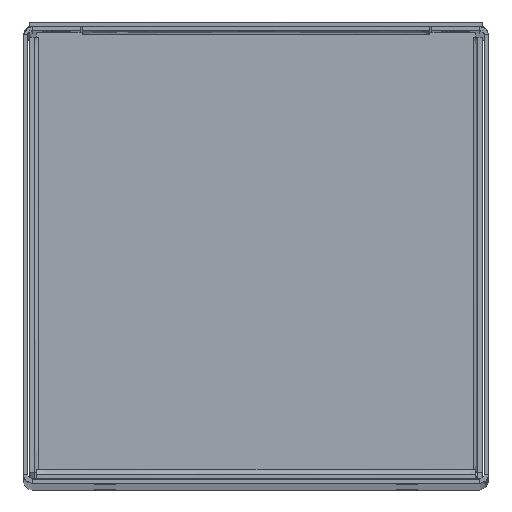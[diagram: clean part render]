
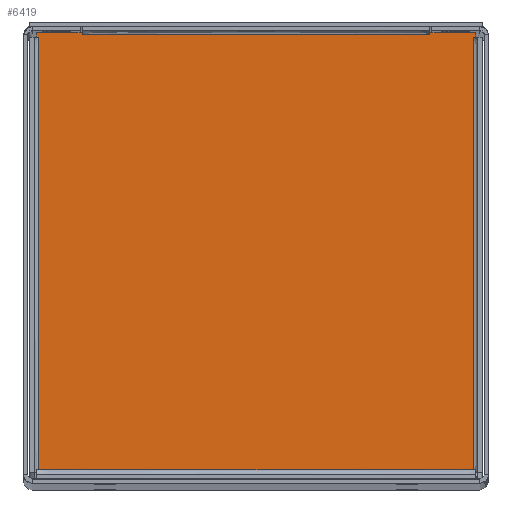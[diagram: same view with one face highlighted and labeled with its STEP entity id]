
A CAD part, top view. The second image highlights one B-rep face of the part: STEP entity #6419.
In plain terms, the highlighted free-form (B-spline) face has degree [1, 1] with [2, 2] control points.
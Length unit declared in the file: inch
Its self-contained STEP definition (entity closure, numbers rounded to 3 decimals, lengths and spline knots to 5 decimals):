
#5775=CARTESIAN_POINT('V97',(0.69,5.865,
   0.635));
#5776=VERTEX_POINT('V97',#5775);
#5790=CARTESIAN_POINT('V98',(5.29,5.865,
   0.635));
#5791=VERTEX_POINT('V98',#5790);
#5792=CARTESIAN_POINT('E115',(5.29,5.865,
   0.635));
#5793=CARTESIAN_POINT('E115',(0.69,5.865,
   0.635));
#5794=QUASI_UNIFORM_CURVE('E115',1,(#5792,#5793),.POLYLINE_FORM.,.F.,
   .U.);
#5795=EDGE_CURVE('E115',#5791,#5776,#5794,.T.);
#5827=CARTESIAN_POINT('V103',(5.898,5.895,
   0.635));
#5828=VERTEX_POINT('V103',#5827);
#5834=CARTESIAN_POINT('V104',(5.898,5.835,
   0.635));
#5835=VERTEX_POINT('V104',#5834);
#5836=CARTESIAN_POINT('E122',(5.898,5.895,
   0.635));
#5837=CARTESIAN_POINT('E122',(5.898,5.835,
   0.635));
#5838=B_SPLINE_CURVE_WITH_KNOTS('E122',1,(#5836,#5837),
   .POLYLINE_FORM.,.F.,.U.,(2,2),(0.93716,
   0.94643),.UNSPECIFIED.);
#5839=EDGE_CURVE('E122',#5828,#5835,#5838,.T.);
#5861=CARTESIAN_POINT('V102',(5.29,5.895,
   0.635));
#5862=VERTEX_POINT('V102',#5861);
#5868=CARTESIAN_POINT('E121',(5.29,5.895,
   0.635));
#5869=CARTESIAN_POINT('E121',(5.898,5.895,
   0.635));
#5870=B_SPLINE_CURVE_WITH_KNOTS('E121',1,(#5868,#5869),
   .POLYLINE_FORM.,.F.,.U.,(2,2),(0.85309,
   0.94643),.UNSPECIFIED.);
#5871=EDGE_CURVE('E121',#5862,#5828,#5870,.T.);
#5894=CARTESIAN_POINT('E120',(5.29,5.865,
   0.635));
#5895=CARTESIAN_POINT('E120',(5.29,5.895,
   0.635));
#5896=B_SPLINE_CURVE_WITH_KNOTS('E120',1,(#5894,#5895),
   .POLYLINE_FORM.,.F.,.U.,(2,2),(0.94179,
   0.94643),.UNSPECIFIED.);
#5897=EDGE_CURVE('E120',#5791,#5862,#5896,.T.);
#5994=CARTESIAN_POINT('V101',(0.69,5.895,
   0.635));
#5995=VERTEX_POINT('V101',#5994);
#6001=CARTESIAN_POINT('E119',(0.69,5.895,
   0.635));
#6002=CARTESIAN_POINT('E119',(0.69,5.865,
   0.635));
#6003=B_SPLINE_CURVE_WITH_KNOTS('E119',1,(#6001,#6002),
   .POLYLINE_FORM.,.F.,.U.,(2,2),(0.94157,
   0.94621),.UNSPECIFIED.);
#6004=EDGE_CURVE('E119',#5995,#5776,#6003,.T.);
#6022=CARTESIAN_POINT('V100',(0.082,5.895,
   0.635));
#6023=VERTEX_POINT('V100',#6022);
#6029=CARTESIAN_POINT('E118',(0.082,5.895,
   0.635));
#6030=CARTESIAN_POINT('E118',(0.69,5.895,
   0.635));
#6031=B_SPLINE_CURVE_WITH_KNOTS('E118',1,(#6029,#6030),
   .POLYLINE_FORM.,.F.,.U.,(2,2),(0.05357,
   0.14691),.UNSPECIFIED.);
#6032=EDGE_CURVE('E118',#6023,#5995,#6031,.T.);
#6050=CARTESIAN_POINT('V99',(0.082,5.835,
   0.635));
#6051=VERTEX_POINT('V99',#6050);
#6057=CARTESIAN_POINT('E117',(0.082,5.835,
   0.635));
#6058=CARTESIAN_POINT('E117',(0.082,5.895,
   0.635));
#6059=B_SPLINE_CURVE_WITH_KNOTS('E117',1,(#6057,#6058),
   .POLYLINE_FORM.,.F.,.U.,(2,2),(0.93716,
   0.94643),.UNSPECIFIED.);
#6060=EDGE_CURVE('E117',#6051,#6023,#6059,.T.);
#6144=CARTESIAN_POINT('V74',(0.115,0.115,
   0.635));
#6145=VERTEX_POINT('V74',#6144);
#6161=CARTESIAN_POINT('V77',(0.115,5.835,
   0.635));
#6162=VERTEX_POINT('V77',#6161);
#6163=CARTESIAN_POINT('E88',(0.115,5.835,
   0.635));
#6164=CARTESIAN_POINT('E88',(0.115,0.115,
   0.635));
#6165=B_SPLINE_CURVE_WITH_KNOTS('E88',1,(#6163,#6164),
   .POLYLINE_FORM.,.F.,.U.,(2,2),(0.05869,
   0.94643),.UNSPECIFIED.);
#6166=EDGE_CURVE('E88',#6162,#6145,#6165,.T.);
#6350=CARTESIAN_POINT('V71',(5.865,0.115,
   0.635));
#6351=VERTEX_POINT('V71',#6350);
#6357=CARTESIAN_POINT('E84',(0.115,0.115,
   0.635));
#6358=CARTESIAN_POINT('E84',(5.865,0.115,
   0.635));
#6359=B_SPLINE_CURVE_WITH_KNOTS('E84',1,(#6357,#6358),
   .POLYLINE_FORM.,.F.,.U.,(2,2),(0.05864,
   0.94136),.UNSPECIFIED.);
#6360=EDGE_CURVE('E84',#6145,#6351,#6359,.T.);
#6386=CARTESIAN_POINT('F35',(-0.26696,-0.2318,
   0.635));
#6387=CARTESIAN_POINT('F35',(-0.26696,6.2418,
   0.635));
#6388=CARTESIAN_POINT('F35',(6.24696,-0.2318,
   0.635));
#6389=CARTESIAN_POINT('F35',(6.24696,6.2418,
   0.635));
#6390=QUASI_UNIFORM_SURFACE('F35',1,1,((#6386,#6388),(#6387,#6389))
,.PLANE_SURF.,.F.,.F.,.U.);
#6391=ORIENTED_EDGE('E84',*,*,#6360,.T.);
#6392=CARTESIAN_POINT('V82',(5.865,5.835,
   0.635));
#6393=VERTEX_POINT('V82',#6392);
#6394=CARTESIAN_POINT('E94',(5.865,0.115,
   0.635));
#6395=CARTESIAN_POINT('E94',(5.865,5.835,
   0.635));
#6396=B_SPLINE_CURVE_WITH_KNOTS('E94',1,(#6394,#6395),
   .POLYLINE_FORM.,.F.,.U.,(2,2),(0.05357,
   0.94131),.UNSPECIFIED.);
#6397=EDGE_CURVE('E94',#6351,#6393,#6396,.T.);
#6398=ORIENTED_EDGE('E94',*,*,#6397,.T.);
#6399=CARTESIAN_POINT('E123',(5.898,5.835,
   0.635));
#6400=CARTESIAN_POINT('E123',(5.865,5.835,
   0.635));
#6401=B_SPLINE_CURVE_WITH_KNOTS('E123',1,(#6399,#6400),
   .POLYLINE_FORM.,.F.,.U.,(2,2),(0.94112,
   0.94619),.UNSPECIFIED.);
#6402=EDGE_CURVE('E123',#5835,#6393,#6401,.T.);
#6403=ORIENTED_EDGE('E123',*,*,#6402,.F.);
#6404=ORIENTED_EDGE('E122',*,*,#5839,.F.);
#6405=ORIENTED_EDGE('E121',*,*,#5871,.F.);
#6406=ORIENTED_EDGE('E120',*,*,#5897,.F.);
#6407=ORIENTED_EDGE('E115',*,*,#5795,.T.);
#6408=ORIENTED_EDGE('E119',*,*,#6004,.F.);
#6409=ORIENTED_EDGE('E118',*,*,#6032,.F.);
#6410=ORIENTED_EDGE('E117',*,*,#6060,.F.);
#6411=CARTESIAN_POINT('E116',(0.115,5.835,
   0.635));
#6412=CARTESIAN_POINT('E116',(0.082,5.835,
   0.635));
#6413=B_SPLINE_CURVE_WITH_KNOTS('E116',1,(#6411,#6412),
   .POLYLINE_FORM.,.F.,.U.,(2,2),(0.05381,
   0.05888),.UNSPECIFIED.);
#6414=EDGE_CURVE('E116',#6162,#6051,#6413,.T.);
#6415=ORIENTED_EDGE('E116',*,*,#6414,.F.);
#6416=ORIENTED_EDGE('E88',*,*,#6166,.T.);
#6417=EDGE_LOOP('F35',(#6391,#6398,#6403,#6404,#6405,#6406,#6407,
   #6408,#6409,#6410,#6415,#6416));
#6418=FACE_OUTER_BOUND('F35',#6417,.F.);
#6419=ADVANCED_FACE('F35',(#6418),#6390,.T.);
